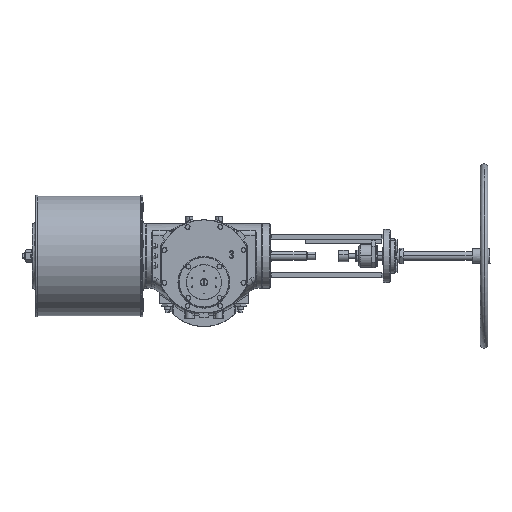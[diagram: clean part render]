
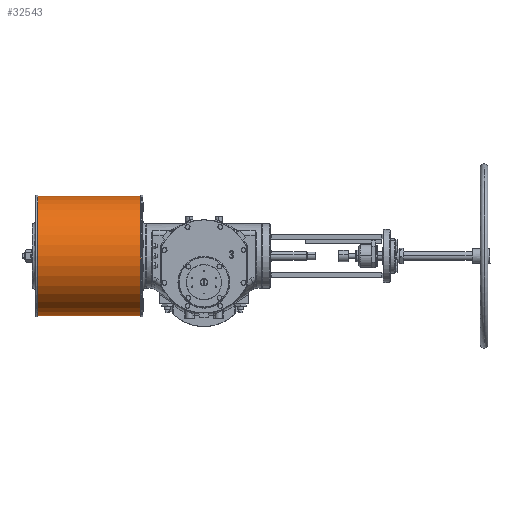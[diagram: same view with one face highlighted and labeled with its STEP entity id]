
A CAD part, top view. The second image highlights one B-rep face of the part: STEP entity #32543.
In plain terms, the highlighted cylindrical face has radius 203.2 mm (diameter 406.4 mm), a partial arc.
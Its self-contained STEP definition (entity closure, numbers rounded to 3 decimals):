
#172 = DIRECTION ( 'NONE',  ( 0., -1., 0. ) ) ;
#1128 = CARTESIAN_POINT ( 'NONE',  ( -214., 35.5, 74.5 ) ) ;
#2559 = FACE_OUTER_BOUND ( 'NONE', #27874, .T. ) ;
#4696 = ORIENTED_EDGE ( 'NONE', *, *, #53715, .T. ) ;
#4909 = VECTOR ( 'NONE', #37967, 1000. ) ;
#8919 = AXIS2_PLACEMENT_3D ( 'NONE', #79405, #42673, #72155 ) ;
#9335 = EDGE_CURVE ( 'NONE', #32469, #9961, #82903, .T. ) ;
#9961 = VERTEX_POINT ( 'NONE', #24265 ) ;
#12059 = AXIS2_PLACEMENT_3D ( 'NONE', #13747, #73585, #172 ) ;
#13747 = CARTESIAN_POINT ( 'NONE',  ( -564., 35.5, 74.5 ) ) ;
#17078 = CYLINDRICAL_SURFACE ( 'NONE', #93108, 203.2 ) ;
#18939 = CARTESIAN_POINT ( 'NONE',  ( -214., 238.7, 74.5 ) ) ;
#23103 = ORIENTED_EDGE ( 'NONE', *, *, #9335, .F. ) ;
#24265 = CARTESIAN_POINT ( 'NONE',  ( -564., -167.7, 74.5 ) ) ;
#25788 = CARTESIAN_POINT ( 'NONE',  ( -214., -167.7, 74.5 ) ) ;
#26196 = LINE ( 'NONE', #18939, #36395 ) ;
#27874 = EDGE_LOOP ( 'NONE', ( #91166, #34225, #4696, #23103 ) ) ;
#28969 = CIRCLE ( 'NONE', #8919, 203.2 ) ;
#32469 = VERTEX_POINT ( 'NONE', #93893 ) ;
#32543 = ADVANCED_FACE ( 'NONE', ( #2559 ), #17078, .T. ) ;
#34225 = ORIENTED_EDGE ( 'NONE', *, *, #39203, .T. ) ;
#36395 = VECTOR ( 'NONE', #76401, 1000. ) ;
#37967 = DIRECTION ( 'NONE',  ( -1., 0., 0. ) ) ;
#39203 = EDGE_CURVE ( 'NONE', #65729, #94153, #26196, .T. ) ;
#42673 = DIRECTION ( 'NONE',  ( -1., 0., 0. ) ) ;
#53715 = EDGE_CURVE ( 'NONE', #94153, #9961, #95313, .T. ) ;
#65729 = VERTEX_POINT ( 'NONE', #84751 ) ;
#69579 = EDGE_CURVE ( 'NONE', #32469, #65729, #28969, .T. ) ;
#72155 = DIRECTION ( 'NONE',  ( 0., -1., 0. ) ) ;
#73585 = DIRECTION ( 'NONE',  ( 1., 0., 0. ) ) ;
#75496 = DIRECTION ( 'NONE',  ( 0., -1., 0. ) ) ;
#76401 = DIRECTION ( 'NONE',  ( -1., 0., 0. ) ) ;
#79405 = CARTESIAN_POINT ( 'NONE',  ( -214., 35.5, 74.5 ) ) ;
#82903 = LINE ( 'NONE', #25788, #4909 ) ;
#84751 = CARTESIAN_POINT ( 'NONE',  ( -214., 238.7, 74.5 ) ) ;
#88648 = CARTESIAN_POINT ( 'NONE',  ( -564., 238.7, 74.5 ) ) ;
#89505 = DIRECTION ( 'NONE',  ( -1., 0., 0. ) ) ;
#91166 = ORIENTED_EDGE ( 'NONE', *, *, #69579, .T. ) ;
#93108 = AXIS2_PLACEMENT_3D ( 'NONE', #1128, #89505, #75496 ) ;
#93893 = CARTESIAN_POINT ( 'NONE',  ( -214., -167.7, 74.5 ) ) ;
#94153 = VERTEX_POINT ( 'NONE', #88648 ) ;
#95313 = CIRCLE ( 'NONE', #12059, 203.2 ) ;
